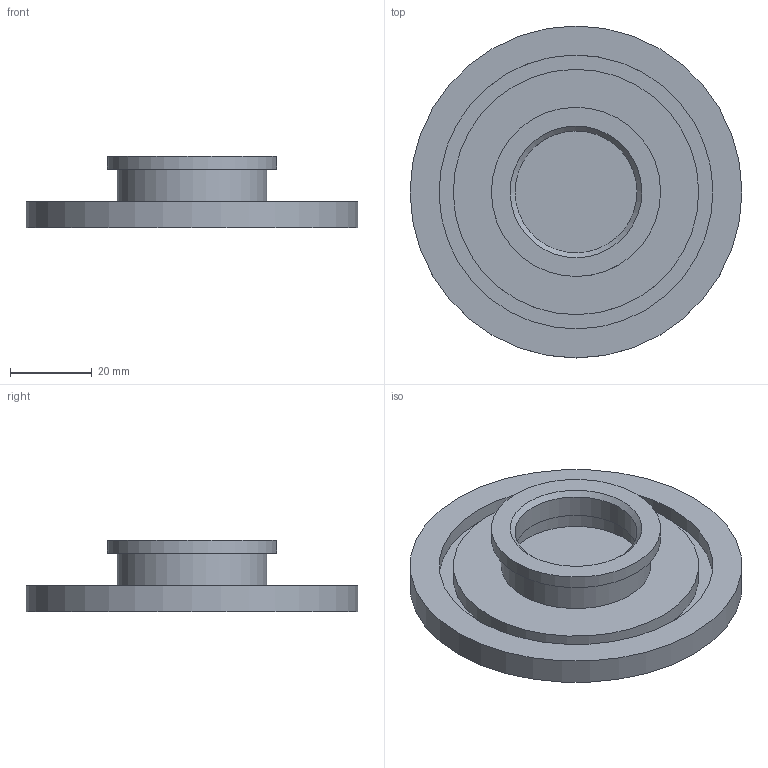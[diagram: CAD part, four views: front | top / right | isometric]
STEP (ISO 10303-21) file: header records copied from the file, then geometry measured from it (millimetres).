
FILE_DESCRIPTION((''),'2;1');
FILE_NAME('C:\Users\astarner\Documents\NIMS documents\CAM Performance Measure\Turning\SPOOL STUDENTS_REV A.stp','2020-05-13T15:24:12',(''),(''),'STEP Write','Mastercam 2020 ... CNC Software, Inc.','');
FILE_SCHEMA(('AUTOMOTIVE_DESIGN'));
Length unit declared in the file: inch
Products named in the file (1): None
Bounding box: 80.98 x 80.98 x 17.44 mm (x, y, z)
Volume: 34270.4 mm3; surface area: 16542.2 mm2
Topology: 1 solids, 1 shells, 16 faces, 24 edges, 15 vertices
Faces by surface type: cylinder 7, plane 7, cone 2
Full cylindrical faces by diameter (mm): 29.769 x1, 32.944 x1, 36.513 x1, 41.275 x1, 59.868 x1, 66.827 x1, 80.975 x1
Entity records: 363 total; most frequent: DIRECTION 66, CARTESIAN_POINT 48, AXIS2_PLACEMENT_3D 33, ORIENTED_EDGE 30, EDGE_LOOP 30, FACE_BOUND 21, STYLED_ITEM 18, ADVANCED_FACE 16
